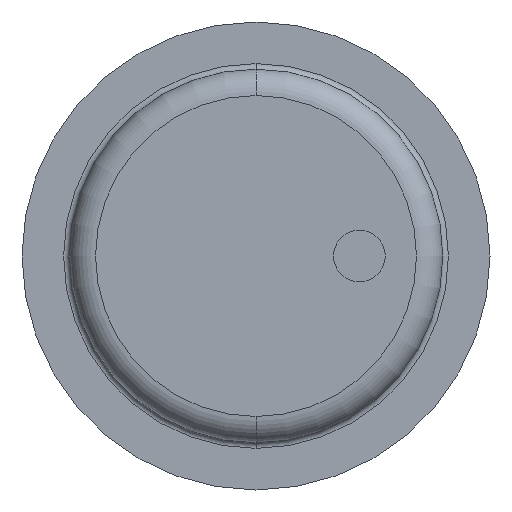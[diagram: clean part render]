
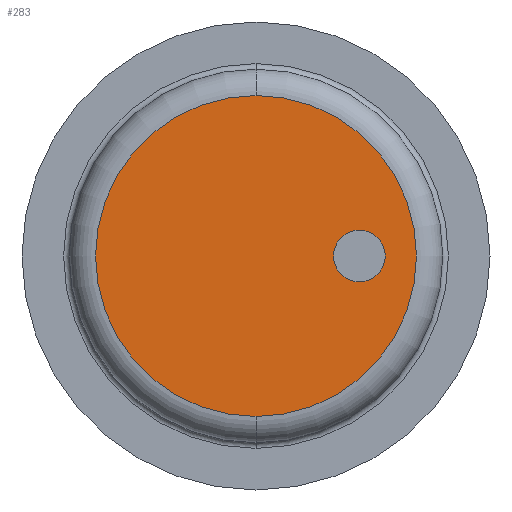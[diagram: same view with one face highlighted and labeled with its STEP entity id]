
A CAD part, front view. The second image highlights one B-rep face of the part: STEP entity #283.
In plain terms, the highlighted planar face has unit normal (0, -1, 0).
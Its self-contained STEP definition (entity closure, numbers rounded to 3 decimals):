
#283 = ADVANCED_FACE( '', ( #652, #653 ), #654, .T. );
#652 = FACE_BOUND( '', #1037, .T. );
#653 = FACE_OUTER_BOUND( '', #1038, .T. );
#654 = PLANE( '', #1039 );
#1037 = EDGE_LOOP( '', ( #2305, #2306 ) );
#1038 = EDGE_LOOP( '', ( #2307, #2308, #2309 ) );
#1039 = AXIS2_PLACEMENT_3D( '', #2310, #2311, #2312 );
#2305 = ORIENTED_EDGE( '', *, *, #2802, .T. );
#2306 = ORIENTED_EDGE( '', *, *, #2804, .T. );
#2307 = ORIENTED_EDGE( '', *, *, #2796, .F. );
#2308 = ORIENTED_EDGE( '', *, *, #2795, .F. );
#2309 = ORIENTED_EDGE( '', *, *, #2805, .F. );
#2310 = CARTESIAN_POINT( '', ( 142.688, -491., 0. ) );
#2311 = DIRECTION( '', ( 0., -1., 0. ) );
#2312 = DIRECTION( '', ( -1., 0., 0. ) );
#2795 = EDGE_CURVE( '', #3460, #3463, #3464, .T. );
#2796 = EDGE_CURVE( '', #3463, #3465, #3466, .T. );
#2802 = EDGE_CURVE( '', #3470, #3474, #3476, .T. );
#2804 = EDGE_CURVE( '', #3474, #3470, #3478, .T. );
#2805 = EDGE_CURVE( '', #3465, #3460, #3479, .T. );
#3460 = VERTEX_POINT( '', #4703 );
#3463 = VERTEX_POINT( '', #4706 );
#3464 = CIRCLE( '', #4707, 85.375 );
#3465 = VERTEX_POINT( '', #4708 );
#3466 = CIRCLE( '', #4709, 85.375 );
#3470 = VERTEX_POINT( '', #4713 );
#3474 = VERTEX_POINT( '', #4718 );
#3476 = CIRCLE( '', #4721, 13.75 );
#3478 = CIRCLE( '', #4723, 13.75 );
#3479 = CIRCLE( '', #4724, 85.375 );
#4703 = CARTESIAN_POINT( '', ( 100., -491., 85.375 ) );
#4706 = CARTESIAN_POINT( '', ( 185.375, -491., 0. ) );
#4707 = AXIS2_PLACEMENT_3D( '', #5617, #5618, #5619 );
#4708 = CARTESIAN_POINT( '', ( 100., -491., -85.375 ) );
#4709 = AXIS2_PLACEMENT_3D( '', #5620, #5621, #5622 );
#4713 = CARTESIAN_POINT( '', ( 168.75, -491., 0. ) );
#4718 = CARTESIAN_POINT( '', ( 141.25, -491., 0. ) );
#4721 = AXIS2_PLACEMENT_3D( '', #5634, #5635, #5636 );
#4723 = AXIS2_PLACEMENT_3D( '', #5640, #5641, #5642 );
#4724 = AXIS2_PLACEMENT_3D( '', #5643, #5644, #5645 );
#5617 = CARTESIAN_POINT( '', ( 100., -491., 0. ) );
#5618 = DIRECTION( '', ( 0., 1., 0. ) );
#5619 = DIRECTION( '', ( 1., 0., 0. ) );
#5620 = CARTESIAN_POINT( '', ( 100., -491., 0. ) );
#5621 = DIRECTION( '', ( 0., 1., 0. ) );
#5622 = DIRECTION( '', ( 1., 0., 0. ) );
#5634 = CARTESIAN_POINT( '', ( 155., -491., 0. ) );
#5635 = DIRECTION( '', ( 0., 1., 0. ) );
#5636 = DIRECTION( '', ( 1., 0., 0. ) );
#5640 = CARTESIAN_POINT( '', ( 155., -491., 0. ) );
#5641 = DIRECTION( '', ( 0., 1., 0. ) );
#5642 = DIRECTION( '', ( 1., 0., 0. ) );
#5643 = CARTESIAN_POINT( '', ( 100., -491., 0. ) );
#5644 = DIRECTION( '', ( 0., 1., 0. ) );
#5645 = DIRECTION( '', ( 1., 0., 0. ) );
